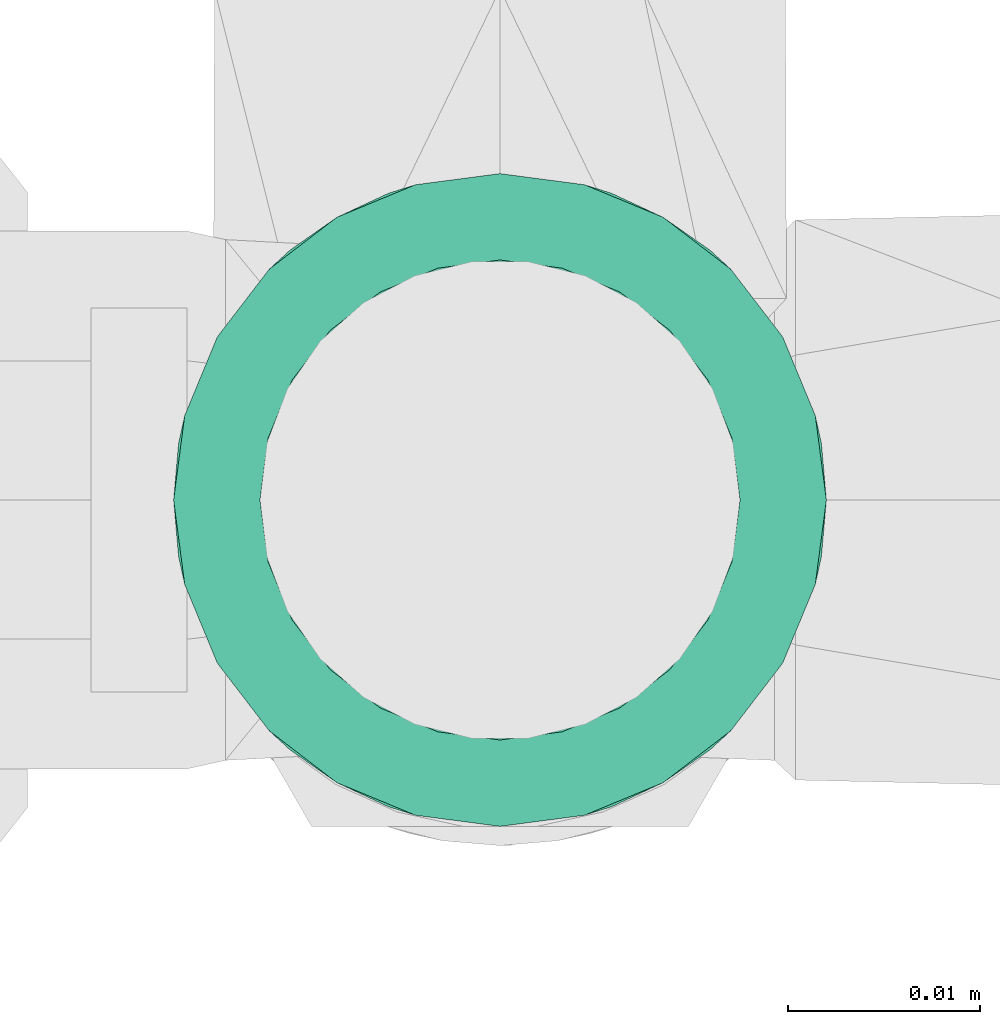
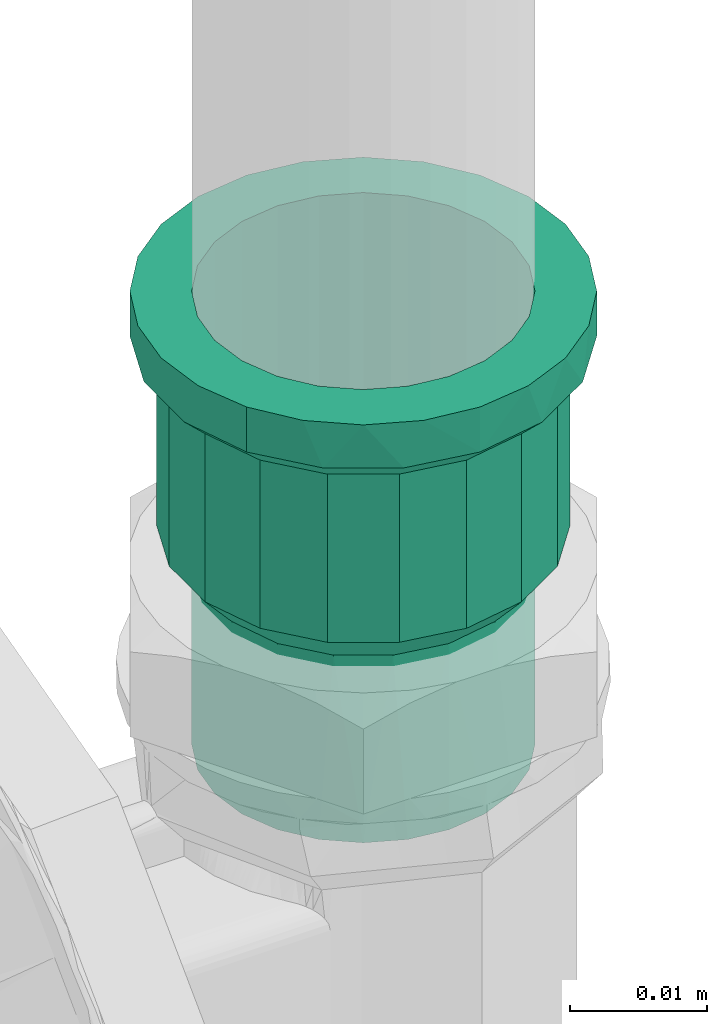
# One storey, part 399 of 589: 1 flow fitting.
"""IFC2X3 building model written with IfcOpenShell, lengths in millimetres."""

import ifcopenshell
import ifcopenshell.guid

model = None  # the IFC model being written
_history = None  # IfcOwnerHistory: only IFC2X3 demands one
_inside = {}  # id of a spatial element -> (the spatial element, [elements in it])
_under = {}  # id of a project, library or spatial element -> (it, [spatial elements below it])
_declared = {}  # id of a project -> (the project, [libraries it declares])
_typed = {}  # id of a type object -> (the type object, [elements of that type])
_made_of = {}  # id of a material, layer set ... -> (it, [elements and type objects made of it])


def new_model(schema):
    """Start an empty IFC model of exactly this schema.

    Asked for "IFC4X3", IfcOpenShell would pick the latest addendum, in which some entities
    have other attributes; the version numbers below select the first issue.
    IFC2X3 requires an IfcOwnerHistory on every rooted entity: one is made here for all.
    """
    global model, _history
    if schema == "IFC4X3":
        model = ifcopenshell.file(schema_version=(4, 3, 0, 0))
    else:
        model = ifcopenshell.file(schema=schema)
    _inside.clear()
    _under.clear()
    _declared.clear()
    _typed.clear()
    _made_of.clear()
    _history = None
    if model.schema == "IFC2X3":
        org = make("IfcOrganization", Name="unknown")
        user = make(
            "IfcPersonAndOrganization",
            ThePerson=make("IfcPerson", FamilyName="unknown"),
            TheOrganization=org,
        )
        app = make(
            "IfcApplication",
            ApplicationDeveloper=org,
            Version="unknown",
            ApplicationFullName="unknown",
            ApplicationIdentifier="unknown",
        )
        _history = make(
            "IfcOwnerHistory",
            OwningUser=user,
            OwningApplication=app,
            ChangeAction="ADDED",
            CreationDate=0,
        )
    return model


def make(cls, **values):
    """One entity of the class cls with the attributes given. An attribute that is None is left unset."""
    return model.create_entity(
        cls, **{name: value for name, value in values.items() if value is not None}
    )


def entity(cls, *values):
    """Any entity or typed value of the class cls, its attributes in the order of the schema. None: left unset."""
    e = model.create_entity(cls)
    for i, value in enumerate(values):
        if value is not None:
            e[i] = value
    return e


def rooted(cls, **values):
    """An entity with a GlobalId (a new one), such as an element, a storey or a relation."""
    return make(cls, GlobalId=ifcopenshell.guid.new(), OwnerHistory=_history, **values)


def si_unit(unit_type, name, prefix=None):
    """IfcSIUnit, for example si_unit("LENGTHUNIT", "METRE", prefix="MILLI")."""
    return make("IfcSIUnit", UnitType=unit_type, Prefix=prefix, Name=name)


def converted_unit(unit_type, name, factor, base, dimensions=None, offset=None):
    """IfcConversionBasedUnit, such as the inch: factor (a typed value) times the base unit."""
    return make(
        "IfcConversionBasedUnit"
        if offset is None
        else "IfcConversionBasedUnitWithOffset",
        ConversionOffset=offset,
        Dimensions=None
        if dimensions is None
        else entity("IfcDimensionalExponents", *dimensions),
        UnitType=unit_type,
        Name=name,
        ConversionFactor=make(
            "IfcMeasureWithUnit", ValueComponent=factor, UnitComponent=base
        ),
    )


def derived_unit(unit_type, elements):
    """IfcDerivedUnit: a product of units, each with its exponent."""
    return make(
        "IfcDerivedUnit",
        Elements=[
            make("IfcDerivedUnitElement", Unit=unit, Exponent=power)
            for unit, power in elements
        ],
        UnitType=unit_type,
    )


def assignment(units):
    """IfcUnitAssignment: the units of a project."""
    return None if units is None else make("IfcUnitAssignment", Units=units)


def point(xyz):
    """IfcCartesianPoint."""
    return None if xyz is None else make("IfcCartesianPoint", Coordinates=xyz)


def direction(xyz):
    """IfcDirection."""
    return None if xyz is None else make("IfcDirection", DirectionRatios=xyz)


def frame(location, z_axis=None, x_axis=None):
    """IfcAxis2Placement3D, a coordinate frame: its origin and axes. An axis left out is left unset."""
    return make(
        "IfcAxis2Placement3D",
        Location=point(location),
        Axis=direction(z_axis),
        RefDirection=direction(x_axis),
    )


def origin():
    """The frame at (0, 0, 0) with its axes left unset."""
    return frame((0.0, 0.0, 0.0))


def place(relative_to, where):
    """IfcLocalPlacement: puts the frame where relative to a parent placement (None: the world)."""
    return make(
        "IfcLocalPlacement", PlacementRelTo=relative_to, RelativePlacement=where
    )


def context(
    kind, dimensions, precision=None, world=None, true_north=None, identifier=None
):
    """IfcGeometricRepresentationContext, for example the 3D "Model" context."""
    return make(
        "IfcGeometricRepresentationContext",
        ContextIdentifier=identifier,
        ContextType=kind,
        CoordinateSpaceDimension=dimensions,
        Precision=precision,
        WorldCoordinateSystem=world,
        TrueNorth=true_north,
    )


def subcontext(parent, identifier, kind, view, scale=None):
    """IfcGeometricRepresentationSubContext, for example "Body" below "Model"."""
    return make(
        "IfcGeometricRepresentationSubContext",
        ContextIdentifier=identifier,
        ContextType=kind,
        ParentContext=parent,
        TargetScale=scale,
        TargetView=view,
    )


def project(units=None, contexts=None):
    """IfcProject with its units and contexts."""
    return rooted(
        "IfcProject",
        Name="project",
        RepresentationContexts=contexts,
        UnitsInContext=assignment(units),
    )


def spatial(cls, under=None, at=None, **own):
    """A site, building, storey or space (cls), placed at a placement, below another one or the project."""
    s = rooted(cls, ObjectPlacement=at, **own)
    if under is not None:
        _under.setdefault(under.id(), (under, []))[1].append(s)
    return s


def faces_of(points, faces, orient=None, outer=None):
    """IfcFace entities. A face is a list of loops; a loop is a list of indices into points, from 0.

    orient and outer hold one flag for each loop. By default every Orientation is true, the
    first loop of a face is its IfcFaceOuterBound and the others are IfcFaceBound.
    """
    made = []
    for i, loops in enumerate(faces):
        bounds = []
        for j, loop in enumerate(loops):
            is_outer = j == 0 if outer is None else outer[i][j]
            bounds.append(
                make(
                    "IfcFaceOuterBound" if is_outer else "IfcFaceBound",
                    Bound=make("IfcPolyLoop", Polygon=[points[k] for k in loop]),
                    Orientation=True if orient is None else orient[i][j],
                )
            )
        made.append(make("IfcFace", Bounds=bounds))
    return made


def faceted_brep(points, faces, orient=None, outer=None, voids=None):
    """IfcFacetedBrep: a solid bounded by flat faces; with voids (closed shells), ...WithVoids."""
    shared = [point(p) for p in points]
    hull = make("IfcClosedShell", CfsFaces=faces_of(shared, faces, orient, outer))
    if voids is None:
        return make("IfcFacetedBrep", Outer=hull)
    return make(
        "IfcFacetedBrepWithVoids",
        Outer=hull,
        Voids=[
            make(cls, CfsFaces=faces_of(shared, fs, o, b)) for cls, fs, o, b in voids
        ],
    )


def shape(context_of_items, identifier, shape_type, items):
    """IfcShapeRepresentation: the items that make up one representation, for example the "Body"."""
    return make(
        "IfcShapeRepresentation",
        ContextOfItems=context_of_items,
        RepresentationIdentifier=identifier,
        RepresentationType=shape_type,
        Items=items,
    )


def source(mapping_origin, context_of_items, identifier, shape_type, items):
    """IfcRepresentationMap: a shape defined once, which mapped items show again and again."""
    return make(
        "IfcRepresentationMap",
        MappingOrigin=mapping_origin,
        MappedRepresentation=shape(context_of_items, identifier, shape_type, items),
    )


def transform(
    local_origin,
    x_axis=None,
    y_axis=None,
    z_axis=None,
    scale=None,
    scale2=None,
    scale3=None,
    uniform=True,
):
    """IfcCartesianTransformationOperator3D, or its non-uniform kind. x_axis, y_axis, z_axis: its Axis1, 2, 3."""
    if uniform:
        return make(
            "IfcCartesianTransformationOperator3D",
            Axis1=direction(x_axis),
            Axis2=direction(y_axis),
            LocalOrigin=point(local_origin),
            Scale=scale,
            Axis3=direction(z_axis),
        )
    return make(
        "IfcCartesianTransformationOperator3DnonUniform",
        Axis1=direction(x_axis),
        Axis2=direction(y_axis),
        LocalOrigin=point(local_origin),
        Scale=scale,
        Axis3=direction(z_axis),
        Scale2=scale2,
        Scale3=scale3,
    )


def mapped(mapping_source, mapping_target):
    """IfcMappedItem: shows the shape of a source again, moved by a transform."""
    return make(
        "IfcMappedItem", MappingSource=mapping_source, MappingTarget=mapping_target
    )


def material(Name=None, Category=None):
    """IfcMaterial."""
    return make("IfcMaterial", Name=Name, Category=Category)


def made_of(thing, what):
    """Note that an element or type object is made of a material, layer set ...; save() writes the relation."""
    if what is not None:
        _made_of.setdefault(what.id(), (what, []))[1].append(thing)
    return thing


def type_object(cls, material=None, **own):
    """A type object (cls), such as IfcWallType, which elements share."""
    return made_of(rooted(cls, **own), material)


def type_shapes(of_type, sources):
    """Give a type object the sources (RepresentationMaps) that its elements show as mapped items."""
    of_type.RepresentationMaps = sources


def element(
    cls,
    number,
    at=None,
    inside=None,
    cuts=None,
    type_object=None,
    material=None,
    context=None,
    identifier="Body",
    shape_type=None,
    held_by="IfcProductDefinitionShape",
    body=None,
    shapes=None,
    **own,
):
    """One element of the class cls, such as IfcWall. Its Tag is "e" and its number.

    at: its placement. inside: the storey or other place that contains it. cuts: it is an
    opening in that element (IfcRelVoidsElement). A single representation is given by context,
    identifier, shape_type and body (its items); several are given by shapes. held_by: the class
    of the entity that holds the representations. save() writes the other relations.
    """
    e = rooted(cls, Tag="e%d" % number, ObjectPlacement=at, **own)
    if body is not None:
        shapes = [shape(context, identifier, shape_type, body)]
    if shapes is not None:
        e.Representation = make(held_by, Representations=shapes)
    if inside is not None:
        _inside.setdefault(inside.id(), (inside, []))[1].append(e)
    if cuts is not None:
        rooted(
            "IfcRelVoidsElement", RelatingBuildingElement=cuts, RelatedOpeningElement=e
        )
    if type_object is not None:
        _typed.setdefault(type_object.id(), (type_object, []))[1].append(e)
    return made_of(e, material)


def aggregate(whole, parts):
    """IfcRelAggregates: a whole, such as a stair, and the parts it consists of."""
    return rooted("IfcRelAggregates", RelatingObject=whole, RelatedObjects=parts)


def save(model, path):
    """Write the relations noted so far, then the file.

    IfcRelAggregates (storeys below a building ...), IfcRelContainedInSpatialStructure (elements
    in a storey), IfcRelDefinesByType, IfcRelAssociatesMaterial and IfcRelDeclares: one each for
    every whole, place, type object, material and project.
    """
    for whole, parts in _under.values():
        aggregate(whole, parts)
    for where, things in _inside.values():
        rooted(
            "IfcRelContainedInSpatialStructure",
            RelatedElements=things,
            RelatingStructure=where,
        )
    for kind, things in _typed.values():
        rooted("IfcRelDefinesByType", RelatedObjects=things, RelatingType=kind)
    for what, things in _made_of.values():
        rooted("IfcRelAssociatesMaterial", RelatedObjects=things, RelatingMaterial=what)
    for by, libraries in _declared.values():
        rooted("IfcRelDeclares", RelatingContext=by, RelatedDefinitions=libraries)
    model.write(path)


model = new_model("IFC2X3")

# Units and contexts
model_context = context("Model", 3, precision=0.01, world=origin(), true_north=direction((6.123031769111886e-17, 1.0)))
body_context = subcontext(model_context, "Body", "Model", "MODEL_VIEW")
ifc_project = project(units=[si_unit("LENGTHUNIT", "METRE", prefix="MILLI"), si_unit("AREAUNIT", "SQUARE_METRE"), si_unit("VOLUMEUNIT", "CUBIC_METRE"), converted_unit("PLANEANGLEUNIT", "DEGREE", entity("IfcRatioMeasure", 0.017453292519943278), si_unit("PLANEANGLEUNIT", "RADIAN"), dimensions=[0, 0, 0, 0, 0, 0, 0]), si_unit("MASSUNIT", "GRAM", prefix="KILO"), derived_unit("MASSDENSITYUNIT", [(si_unit("MASSUNIT", "GRAM", prefix="KILO"), 1), (si_unit("LENGTHUNIT", "METRE"), -3)]), derived_unit("IONCONCENTRATIONUNIT", [(si_unit("MASSUNIT", "GRAM", prefix="KILO"), 1), (si_unit("LENGTHUNIT", "METRE"), -3)]), derived_unit("MOMENTOFINERTIAUNIT", [(si_unit("LENGTHUNIT", "METRE"), 4)]), si_unit("TIMEUNIT", "SECOND"), si_unit("FREQUENCYUNIT", "HERTZ"), si_unit("THERMODYNAMICTEMPERATUREUNIT", "DEGREE_CELSIUS"), derived_unit("THERMALTRANSMITTANCEUNIT", [(si_unit("MASSUNIT", "GRAM", prefix="KILO"), 1), (si_unit("THERMODYNAMICTEMPERATUREUNIT", "KELVIN"), -1), (si_unit("TIMEUNIT", "SECOND"), -3)]), derived_unit("THERMALCONDUCTANCEUNIT", [(si_unit("MASSUNIT", "GRAM", prefix="KILO"), 1), (si_unit("THERMODYNAMICTEMPERATUREUNIT", "KELVIN"), -1), (si_unit("TIMEUNIT", "SECOND"), -3), (si_unit("LENGTHUNIT", "METRE"), 1)]), derived_unit("VOLUMETRICFLOWRATEUNIT", [(si_unit("LENGTHUNIT", "METRE"), 3), (si_unit("TIMEUNIT", "SECOND"), -1)]), derived_unit("MASSFLOWRATEUNIT", [(si_unit("MASSUNIT", "GRAM", prefix="KILO"), 1), (si_unit("TIMEUNIT", "SECOND"), -1)]), derived_unit("ROTATIONALFREQUENCYUNIT", [(si_unit("TIMEUNIT", "SECOND"), -1)]), si_unit("ELECTRICCURRENTUNIT", "AMPERE"), si_unit("ELECTRICVOLTAGEUNIT", "VOLT"), si_unit("POWERUNIT", "WATT"), si_unit("FORCEUNIT", "NEWTON", prefix="KILO"), si_unit("ILLUMINANCEUNIT", "LUX"), si_unit("LUMINOUSFLUXUNIT", "LUMEN"), si_unit("LUMINOUSINTENSITYUNIT", "CANDELA"), derived_unit("USERDEFINED", [(si_unit("MASSUNIT", "GRAM", prefix="KILO"), -1), (si_unit("LENGTHUNIT", "METRE"), -2), (si_unit("TIMEUNIT", "SECOND"), 3), (si_unit("LUMINOUSFLUXUNIT", "LUMEN"), 1)]), derived_unit("USERDEFINED", [(si_unit("MASSUNIT", "GRAM", prefix="KILO"), 1), (si_unit("TIMEUNIT", "SECOND"), -3), (si_unit("LENGTHUNIT", "METRE"), 3), (si_unit("ELECTRICCURRENTUNIT", "AMPERE"), -2)]), derived_unit("SOUNDPOWERUNIT", [(si_unit("MASSUNIT", "GRAM", prefix="KILO"), 1), (si_unit("TIMEUNIT", "SECOND"), -3), (si_unit("LENGTHUNIT", "METRE"), 2)]), derived_unit("SOUNDPRESSUREUNIT", [(si_unit("MASSUNIT", "GRAM", prefix="KILO"), 1), (si_unit("LENGTHUNIT", "METRE"), -1), (si_unit("TIMEUNIT", "SECOND"), -2)]), derived_unit("LINEARVELOCITYUNIT", [(si_unit("LENGTHUNIT", "METRE"), 1), (si_unit("TIMEUNIT", "SECOND"), -1)]), si_unit("PRESSUREUNIT", "PASCAL"), derived_unit("USERDEFINED", [(si_unit("MASSUNIT", "GRAM", prefix="KILO"), 1), (si_unit("LENGTHUNIT", "METRE"), -2), (si_unit("TIMEUNIT", "SECOND"), -2)]), derived_unit("LINEARFORCEUNIT", [(si_unit("MASSUNIT", "GRAM", prefix="KILO"), 1), (si_unit("TIMEUNIT", "SECOND"), -2)]), derived_unit("PLANARFORCEUNIT", [(si_unit("MASSUNIT", "GRAM", prefix="KILO"), 1), (si_unit("LENGTHUNIT", "METRE"), -1), (si_unit("TIMEUNIT", "SECOND"), -2)]), derived_unit("SPECIFICHEATCAPACITYUNIT", [(si_unit("THERMODYNAMICTEMPERATUREUNIT", "KELVIN"), -1), (si_unit("LENGTHUNIT", "METRE"), 2), (si_unit("TIMEUNIT", "SECOND"), -2)]), derived_unit("HEATINGVALUEUNIT", [(si_unit("LENGTHUNIT", "METRE"), 2), (si_unit("TIMEUNIT", "SECOND"), -2)]), derived_unit("VAPORPERMEABILITYUNIT", [(si_unit("LENGTHUNIT", "METRE"), -1), (si_unit("TIMEUNIT", "SECOND"), 1)]), derived_unit("DYNAMICVISCOSITYUNIT", [(si_unit("MASSUNIT", "GRAM", prefix="KILO"), 1), (si_unit("TIMEUNIT", "SECOND"), -1), (si_unit("LENGTHUNIT", "METRE"), -1)]), derived_unit("THERMALEXPANSIONCOEFFICIENTUNIT", [(si_unit("THERMODYNAMICTEMPERATUREUNIT", "KELVIN"), -1)]), derived_unit("MODULUSOFELASTICITYUNIT", [(si_unit("MASSUNIT", "GRAM", prefix="KILO"), 1), (si_unit("LENGTHUNIT", "METRE"), -1), (si_unit("TIMEUNIT", "SECOND"), -2)]), derived_unit("ISOTHERMALMOISTURECAPACITYUNIT", [(si_unit("LENGTHUNIT", "METRE"), 3), (si_unit("MASSUNIT", "GRAM", prefix="KILO"), -1)]), derived_unit("MOISTUREDIFFUSIVITYUNIT", [(si_unit("TIMEUNIT", "SECOND"), -1), (si_unit("LENGTHUNIT", "METRE"), 2)])], contexts=[model_context])

# Site, building, storey
site_placement = place(None, origin())
site = spatial("IfcSite", under=ifc_project, at=site_placement, Name="Default", CompositionType="ELEMENT")
building_placement = place(site_placement, origin())
building = spatial("IfcBuilding", under=site, at=building_placement, CompositionType="ELEMENT")
storey_placement = place(building_placement, frame((0.0, 0.0, 100.0)))
storey = spatial("IfcBuildingStorey", under=building, at=storey_placement, Name="TÉRREO", CompositionType="ELEMENT", Elevation=100.0)

# Flow fitting
ifc_material = material(Name="PVC Marrom")
pipe_fitting_type = type_object("IfcPipeFittingType", Name="PVC Marrom Soldável_Adaptador Curto com Bolsa e Rosca Aninhado_Rodrigo MEP:Adaptador", PredefinedType="NOTDEFINED", material=ifc_material)
shared_shape = source(origin(), body_context, "Body", "Brep", [
    faceted_brep([(0.0, 6.2499999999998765, -10.825317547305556), (0.0, 12.020815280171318, -12.0208152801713), (0.0, 8.500000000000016, -14.72243186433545), (0.0, 8.838834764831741, -8.83883476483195), (0.0, 3.2352380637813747, -12.07407282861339), (0.0, 14.722431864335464, -8.499999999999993), (0.0, 10.825317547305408, -6.250000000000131), (0.0, 12.074072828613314, -3.2352380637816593), (0.0, 16.42073904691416, -4.399923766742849), (0.0, 12.5, 0.0), (0.0, 17.0, 0.0), (0.0, 12.074072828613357, 3.2352380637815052), (0.0, 16.420739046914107, 4.399923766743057), (0.0, 10.825317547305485, 6.2499999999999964), (0.0, 14.722431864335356, 8.500000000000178), (0.0, 8.83883476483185, 8.838834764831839), (0.0, 12.020815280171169, 12.020815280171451), (0.0, 6.250000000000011, 10.82531754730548), (0.0, 8.499999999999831, 14.722431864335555), (0.0, 3.2352380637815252, 12.07407282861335), (0.0, 4.39992376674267, 16.42073904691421), (0.0, 0.0, 12.5), (0.0, 0.0, 17.0), (0.0, -3.2352380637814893, 12.07407282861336), (0.0, -4.399923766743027, 16.420739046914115), (0.0, -6.24999999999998, 10.825317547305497), (0.0, -8.500000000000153, 14.722431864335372), (0.0, -8.838834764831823, 8.838834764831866), (0.0, -12.020815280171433, 12.020815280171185), (0.0, -10.82531754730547, 6.250000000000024), (0.0, -14.722431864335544, 8.499999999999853), (0.0, -16.42073904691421, 4.399923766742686), (0.0, -12.074072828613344, 3.2352380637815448), (0.0, -17.0, 0.0), (0.0, -12.5, 0.0), (0.0, -16.42073904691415, -4.399923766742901), (0.0, -12.074072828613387, -3.235238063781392), (0.0, -14.722431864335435, -8.500000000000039), (0.0, -10.82531754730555, -6.249999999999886), (0.0, -12.02081528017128, -12.020815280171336), (0.0, -8.838834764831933, -8.838834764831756), (0.0, -8.499999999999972, -14.722431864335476), (0.0, -6.250000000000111, -10.825317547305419), (0.0, -4.399923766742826, -16.42073904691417), (0.0, -3.235238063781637, -12.074072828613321), (0.0, 0.0, -17.0), (0.0, 0.0, -12.5), (0.0, 4.399923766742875, -16.420739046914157), (4.0, -16.487306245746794, 2.907393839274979), (4.0, -15.974612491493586, 5.8147876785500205), (4.0, -13.022146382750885, 10.928115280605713), (4.0, -10.760457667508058, 12.825628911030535), (4.0, -14.498379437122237, 8.371451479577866), (4.0, -2.9501525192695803, 16.742060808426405), (4.0, -5.724460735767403, 15.732601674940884), (4.0, -17.0, 0.0), (4.0, -16.59968259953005, 2.27012779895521), (4.0, -8.498768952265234, 14.723142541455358), (4.0, 5.728407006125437, 15.731165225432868), (4.0, 8.502461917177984, 14.721010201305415), (4.0, 2.954352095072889, 16.74132024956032), (4.0, 10.763674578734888, 12.82292929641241), (4.0, 13.02488724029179, 10.924848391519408), (4.0, 15.976070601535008, 5.8107803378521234), (4.0, 17.0, 0.0), (4.0, 14.5004789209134, 8.367814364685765), (4.0, 0.002099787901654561, 16.741690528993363), (4.0, 15.97607060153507, -5.810780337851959), (4.0, 13.024887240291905, -10.92484839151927), (4.0, 10.763674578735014, -12.822929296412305), (4.0, 14.500478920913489, -8.367814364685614), (4.0, 2.9543520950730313, -16.741320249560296), (4.0, 5.728407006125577, -15.731165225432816), (4.0, 8.502461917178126, -14.721010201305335), (4.0, -16.487306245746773, -2.907393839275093), (4.0, -5.724460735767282, -15.732601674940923), (4.0, -8.498768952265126, -14.72314254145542), (4.0, -2.950152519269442, -16.74206080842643), (4.0, -10.760457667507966, -12.825628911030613), (4.0, -13.022146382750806, -10.928115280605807), (4.0, -15.974612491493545, -5.814787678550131), (4.0, -14.498379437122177, -8.371451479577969), (4.0, 0.002099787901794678, -16.741690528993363), (4.0, -16.599682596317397, -2.2701278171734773), (20.84999999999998, -14.142230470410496, 5.147797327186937), (5.900000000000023, -14.142230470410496, 5.147797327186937), (5.900000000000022, -14.59611523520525, 2.573898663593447), (5.900000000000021, -15.05, 0.0), (20.850000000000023, -15.05, 0.0), (20.85, -14.596115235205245, 2.573898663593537), (20.849999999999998, -14.535973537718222, 2.91495138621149), (20.84999999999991, -7.523910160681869, 13.034311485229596), (5.900000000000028, -7.523910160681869, 13.034311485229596), (5.900000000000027, -9.526169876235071, 11.354453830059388), (5.900000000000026, -11.528429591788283, 9.674596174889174), (20.84999999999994, -11.528429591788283, 9.674596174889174), (20.849999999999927, -9.52616987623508, 11.354453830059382), (5.900000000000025, -12.83533003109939, 7.411196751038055), (20.849999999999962, -12.835330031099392, 7.411196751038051), (5.900000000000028, -5.067831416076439, 13.927979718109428), (20.849999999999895, -5.067831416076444, 13.927979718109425), (20.849999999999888, -2.6117526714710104, 14.821647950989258), (5.900000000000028, -2.6117526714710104, 14.821647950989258), (5.900000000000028, 0.0018589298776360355, 14.8213201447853), (20.849999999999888, 0.0018589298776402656, 14.821320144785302), (20.849999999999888, 2.61547053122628, 14.820992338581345), (5.900000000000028, 2.615470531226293, 14.820992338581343), (20.849999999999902, 7.527179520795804, 13.032423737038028), (5.900000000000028, 7.527179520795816, 13.032423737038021), (5.900000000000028, 5.071325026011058, 13.92670803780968), (20.849999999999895, 5.0713250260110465, 13.926708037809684), (20.84999999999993, 11.530856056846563, 9.671704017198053), (5.900000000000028, 11.530856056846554, 9.671704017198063), (5.900000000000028, 9.52901778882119, 11.35206387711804), (20.849999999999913, 9.529017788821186, 11.352063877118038), (20.849999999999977, 14.143521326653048, 5.144249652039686), (5.900000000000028, 14.143521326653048, 5.144249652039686), (5.900000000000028, 12.837188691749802, 7.407976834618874), (20.849999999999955, 12.837188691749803, 7.407976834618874), (20.850000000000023, 15.05, 0.0), (5.900000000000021, 15.05, 0.0), (20.85000000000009, 14.143521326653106, -5.144249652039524), (5.900000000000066, 14.143521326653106, -5.144249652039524), (5.900000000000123, 7.527179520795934, -13.032423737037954), (5.900000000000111, 9.529017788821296, -11.352063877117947), (5.900000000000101, 11.530856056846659, -9.67170401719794), (20.85000000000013, 11.530856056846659, -9.67170401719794), (20.85000000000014, 9.529017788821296, -11.352063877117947), (20.850000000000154, 7.527179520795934, -13.032423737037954), (20.850000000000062, -14.142230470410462, -5.147797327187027), (5.900000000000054, -14.142230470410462, -5.147797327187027), (5.90000000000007, -12.835330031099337, -7.411196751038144), (5.900000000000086, -11.528429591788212, -9.67459617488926), (20.850000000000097, -11.528429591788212, -9.67459617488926), (20.850000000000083, -12.835330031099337, -7.411196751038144), (20.850000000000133, -7.523910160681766, -13.034311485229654), (5.900000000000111, -7.523910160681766, -13.034311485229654), (5.90000000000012, -5.067831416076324, -13.927979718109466), (5.900000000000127, -2.6117526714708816, -14.821647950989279), (20.850000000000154, -2.6117526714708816, -14.821647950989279), (20.85000000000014, -5.067831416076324, -13.927979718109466), (5.900000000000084, 12.837188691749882, -7.407976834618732), (20.850000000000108, 12.837188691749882, -7.40797683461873), (5.900000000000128, 5.071325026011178, -13.926708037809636), (20.850000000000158, 5.071325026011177, -13.926708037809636), (20.85000000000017, 2.6154705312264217, -14.82099233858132), (5.900000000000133, 2.6154705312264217, -14.82099233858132), (20.850000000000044, -14.535973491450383, -2.91495164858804), (20.85000000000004, -14.667751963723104, -2.1676596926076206), (5.900000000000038, -14.596115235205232, -2.573898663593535), (5.900000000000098, -9.526169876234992, -11.354453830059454), (20.850000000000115, -9.52616987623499, -11.354453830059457), (5.900000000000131, 0.0018589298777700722, -14.821320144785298), (20.850000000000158, 0.0018589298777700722, -14.821320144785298), (40.29999999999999, 3.2352380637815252, -12.07407282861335), (40.29999999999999, 6.250000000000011, -10.82531754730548), (40.29999999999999, 8.83883476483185, -8.838834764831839), (40.29999999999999, 10.825317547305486, -6.249999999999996), (40.29999999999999, 12.074072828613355, -3.2352380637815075), (40.29999999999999, 12.5, 0.0), (40.29999999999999, 12.074072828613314, 3.2352380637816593), (40.29999999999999, 10.825317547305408, 6.250000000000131), (40.29999999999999, 8.838834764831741, 8.83883476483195), (40.29999999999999, 6.2499999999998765, 10.825317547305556), (40.29999999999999, 3.2352380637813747, 12.07407282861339), (40.29999999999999, 0.0, 12.5), (40.29999999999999, -3.235238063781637, 12.074072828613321), (40.29999999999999, -6.250000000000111, 10.825317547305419), (40.29999999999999, -8.838834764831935, 8.838834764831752), (40.29999999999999, -10.825317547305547, 6.249999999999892), (40.29999999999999, -12.074072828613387, 3.235238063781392), (40.29999999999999, -12.5, 0.0), (40.29999999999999, -12.074072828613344, -3.2352380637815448), (40.29999999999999, -10.825317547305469, -6.2500000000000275), (40.29999999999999, -8.838834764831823, -8.838834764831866), (40.29999999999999, -6.24999999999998, -10.825317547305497), (40.29999999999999, -3.2352380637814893, -12.07407282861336), (40.29999999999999, 0.0, -12.5), (23.749999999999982, -12.5, 0.0), (23.74999999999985, -9.57510763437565, 8.035378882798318), (23.749999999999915, -11.746038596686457, 4.275579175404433), (23.749999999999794, -6.249094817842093, 10.825840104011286), (23.74999999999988, -10.660573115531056, 6.155479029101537), (23.74999999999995, -12.182518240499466, 1.8003818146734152), (23.74999999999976, -2.1692297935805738, 12.310338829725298), (23.74999999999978, -4.209162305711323, 11.56808946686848), (23.74999999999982, -7.912101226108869, 9.430609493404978), (23.749999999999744, 2.1723177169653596, 12.309794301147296), (23.749999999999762, 6.251810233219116, 10.824272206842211), (23.749999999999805, 9.577122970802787, 8.032976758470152), (23.749999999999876, 11.747110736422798, 4.272632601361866), (23.749999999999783, 7.9144666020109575, 9.428624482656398), (23.74999999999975, 4.212063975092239, 11.56703325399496), (23.749999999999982, 12.5, 0.0), (23.749999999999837, 10.662116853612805, 6.15280467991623), (23.74999999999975, 0.0015439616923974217, 12.31006656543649), (23.750000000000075, 9.577122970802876, -8.032976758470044), (23.75000000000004, 11.747110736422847, -4.272632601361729), (23.750000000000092, 6.2518102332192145, -10.824272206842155), (23.750000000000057, 10.662116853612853, -6.152804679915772), (23.7500000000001, 2.1723177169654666, -12.309794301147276), (23.7500000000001, 4.212063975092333, -11.56703325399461), (23.75000000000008, 7.914466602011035, -9.428624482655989), (23.750000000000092, -2.1692297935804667, -12.310338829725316), (23.750000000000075, -6.249094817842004, -10.82584010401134), (23.750000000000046, -9.575107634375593, -8.035378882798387), (23.750000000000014, -11.74603859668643, -4.275579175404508), (23.750000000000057, -7.912101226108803, -9.430609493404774), (23.75000000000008, -4.20916230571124, -11.56808946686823), (23.749999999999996, -12.123019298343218, -2.1377895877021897), (23.750000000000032, -10.660573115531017, -6.155479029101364), (23.7500000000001, 0.0015439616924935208, -12.310066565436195), (5.900000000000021, -12.5, 0.0), (20.850000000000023, -12.5, 0.0), (20.850000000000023, -12.07407282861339, -3.2352380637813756), (5.900000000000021, -12.07407282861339, -3.2352380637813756), (4.0, -12.07407282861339, -3.2352380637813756), (4.0, -12.5, 0.0), (20.850000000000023, -10.825317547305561, -6.249999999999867), (5.900000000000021, -10.825317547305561, -6.249999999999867), (4.0, -10.825317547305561, -6.249999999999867), (5.900000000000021, -6.250000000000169, -10.825317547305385), (4.0, -6.250000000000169, -10.825317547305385), (4.0, -8.838834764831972, -8.838834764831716), (5.900000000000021, -8.838834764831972, -8.838834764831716), (20.850000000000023, -8.838834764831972, -8.838834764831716), (20.850000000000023, -6.250000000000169, -10.825317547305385), (5.900000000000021, -3.235238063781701, -12.074072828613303), (4.0, -3.235238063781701, -12.074072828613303), (20.850000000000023, -3.235238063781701, -12.074072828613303), (20.850000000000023, 0.0, -12.5), (5.900000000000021, 0.0, -12.5), (4.0, 0.0, -12.5), (20.850000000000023, 3.2352380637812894, -12.074072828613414), (5.900000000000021, 3.2352380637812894, -12.074072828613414), (4.0, 3.2352380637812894, -12.074072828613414), (20.850000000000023, 6.24999999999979, -10.825317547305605), (5.900000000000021, 6.24999999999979, -10.825317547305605), (4.0, 6.24999999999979, -10.825317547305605), (5.900000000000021, 10.825317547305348, -6.250000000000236), (4.0, 10.825317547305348, -6.250000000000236), (4.0, 8.838834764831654, -8.838834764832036), (5.900000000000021, 8.838834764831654, -8.838834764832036), (20.850000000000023, 8.838834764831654, -8.838834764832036), (20.850000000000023, 10.825317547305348, -6.250000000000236), (5.900000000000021, 12.07407282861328, -3.2352380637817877), (4.0, 12.07407282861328, -3.2352380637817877), (20.850000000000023, 12.07407282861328, -3.2352380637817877), (20.850000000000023, 12.5, 0.0), (5.900000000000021, 12.5, 0.0), (4.0, 12.5, 0.0), (20.850000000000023, 12.074072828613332, 3.2352380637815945), (5.900000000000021, 12.074072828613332, 3.2352380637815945), (4.0, 12.074072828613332, 3.2352380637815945), (20.850000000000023, 10.82531754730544, 6.250000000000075), (5.900000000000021, 10.82531754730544, 6.250000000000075), (4.0, 10.82531754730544, 6.250000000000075), (5.900000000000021, 6.249999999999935, 10.825317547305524), (4.0, 6.249999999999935, 10.825317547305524), (4.0, 8.838834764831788, 8.838834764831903), (5.900000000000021, 8.838834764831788, 8.838834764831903), (20.850000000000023, 8.838834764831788, 8.838834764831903), (20.850000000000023, 6.249999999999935, 10.825317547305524), (5.900000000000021, 3.2352380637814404, 12.074072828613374), (4.0, 3.2352380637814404, 12.074072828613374), (20.850000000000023, 3.2352380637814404, 12.074072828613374), (20.850000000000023, 0.0, 12.5), (5.900000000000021, 0.0, 12.5), (4.0, 0.0, 12.5), (20.850000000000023, -3.2352380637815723, 12.074072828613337), (5.900000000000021, -3.2352380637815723, 12.074072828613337), (4.0, -3.2352380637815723, 12.074072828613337), (20.850000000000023, -6.250000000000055, 10.825317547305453), (5.900000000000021, -6.250000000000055, 10.825317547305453), (4.0, -6.250000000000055, 10.825317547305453), (5.900000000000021, -10.825317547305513, 6.249999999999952), (4.0, -10.825317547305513, 6.249999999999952), (4.0, -8.838834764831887, 8.838834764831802), (5.900000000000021, -8.838834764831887, 8.838834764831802), (20.850000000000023, -8.838834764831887, 8.838834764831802), (20.850000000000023, -10.825317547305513, 6.249999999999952), (5.900000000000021, -12.07407282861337, 3.2352380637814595), (4.0, -12.07407282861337, 3.2352380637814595), (20.850000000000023, -12.07407282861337, 3.2352380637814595)], [[[0, 1, 2]], [[3, 1, 0]], [[4, 0, 2]], [[1, 3, 5]], [[5, 3, 6]], [[5, 6, 7]], [[8, 5, 7]], [[9, 8, 7]], [[10, 8, 9]], [[10, 9, 11]], [[12, 10, 11]], [[12, 11, 13]], [[14, 12, 13]], [[14, 13, 15]], [[15, 16, 14]], [[15, 17, 16]], [[18, 16, 17]], [[19, 18, 17]], [[18, 19, 20]], [[21, 20, 19]], [[22, 20, 21]], [[21, 23, 22]], [[24, 22, 23]], [[25, 24, 23]], [[24, 25, 26]], [[25, 27, 26]], [[27, 28, 26]], [[28, 27, 29]], [[28, 29, 30]], [[30, 29, 31]], [[31, 29, 32]], [[33, 31, 32]], [[32, 34, 33]], [[33, 34, 35]], [[34, 36, 35]], [[37, 35, 36]], [[37, 36, 38]], [[39, 37, 38]], [[40, 39, 38]], [[40, 41, 39]], [[42, 41, 40]], [[43, 41, 42]], [[42, 44, 43]], [[43, 44, 45]], [[46, 45, 44]], [[46, 4, 47]], [[45, 46, 47]], [[2, 47, 4]], [[48, 49, 31]], [[28, 50, 51]], [[50, 30, 49, 52]], [[53, 24, 54]], [[30, 31, 49]], [[33, 55, 56, 48]], [[51, 57, 26]], [[51, 26, 28]], [[30, 50, 28]], [[58, 59, 18]], [[58, 18, 20]], [[26, 57, 54]], [[26, 54, 24]], [[22, 24, 53]], [[33, 48, 31]], [[20, 60, 58]], [[16, 61, 62]], [[12, 63, 64]], [[63, 14, 62, 65]], [[12, 64, 10]], [[18, 61, 16]], [[22, 53, 66, 60]], [[22, 60, 20]], [[14, 16, 62]], [[59, 61, 18]], [[14, 63, 12]], [[8, 64, 67]], [[1, 68, 69]], [[68, 5, 67, 70]], [[71, 47, 72]], [[5, 8, 67]], [[8, 10, 64]], [[2, 72, 47]], [[69, 73, 2]], [[5, 68, 1]], [[74, 33, 35]], [[75, 76, 41]], [[2, 73, 72]], [[75, 41, 43]], [[45, 47, 71]], [[69, 2, 1]], [[43, 77, 75]], [[39, 78, 79]], [[35, 80, 74]], [[80, 37, 79, 81]], [[37, 80, 35]], [[41, 78, 39]], [[45, 71, 82, 77]], [[45, 77, 43]], [[37, 39, 79]], [[76, 78, 41]], [[33, 74, 83, 55]], [[84, 85, 86, 87, 88, 89, 90]], [[91, 92, 93, 94, 95, 96]], [[97, 85, 84, 98, 95, 94]], [[99, 92, 91, 100, 101, 102]], [[103, 102, 101, 104, 105, 106]], [[107, 108, 109, 106, 105, 110]], [[111, 112, 113, 108, 107, 114]], [[115, 116, 117, 112, 111, 118]], [[115, 119, 120, 116]], [[120, 119, 121, 122]], [[123, 124, 125, 126, 127, 128]], [[129, 130, 131, 132, 133, 134]], [[135, 136, 137, 138, 139, 140]], [[141, 122, 121, 142, 126, 125]], [[143, 123, 128, 144, 145, 146]], [[147, 148, 88, 87, 149, 130, 129]], [[133, 132, 150, 136, 135, 151]], [[152, 146, 145, 153, 139, 138]], [[154, 155, 156, 157, 158, 159, 160, 161, 162, 163, 164, 165, 166, 167, 168, 169, 170, 171, 172, 173, 174, 175, 176, 177]], [[178, 171, 170]], [[179, 169, 168]], [[170, 169, 180]], [[168, 167, 181]], [[169, 179, 182, 180]], [[170, 180, 183, 178]], [[166, 184, 185, 181]], [[168, 181, 186, 179]], [[184, 166, 165]], [[181, 167, 166]], [[164, 187, 165]], [[163, 188, 164]], [[189, 162, 161]], [[163, 162, 188]], [[190, 161, 160]], [[162, 189, 191, 188]], [[164, 188, 192, 187]], [[160, 193, 190]], [[161, 190, 194, 189]], [[160, 159, 193]], [[165, 187, 195, 184]], [[193, 159, 158]], [[196, 157, 156]], [[158, 157, 197]], [[156, 155, 198]], [[157, 196, 199, 197]], [[197, 193, 158]], [[154, 200, 201, 198]], [[156, 198, 202, 196]], [[200, 154, 177]], [[198, 155, 154]], [[176, 203, 177]], [[175, 204, 176]], [[205, 174, 173]], [[175, 174, 204]], [[206, 173, 172]], [[174, 205, 207, 204]], [[176, 204, 208, 203]], [[172, 178, 209, 206]], [[173, 206, 210, 205]], [[172, 171, 178]], [[177, 203, 211, 200]], [[212, 213, 214, 215, 216, 36, 34, 217]], [[215, 214, 218, 219, 220, 38, 36, 216]], [[221, 222, 42, 40, 223, 224, 225, 226]], [[225, 224, 223, 40, 38, 220, 219, 218]], [[227, 228, 44, 42, 222, 221, 226, 229]], [[227, 229, 230, 231, 232, 46, 44, 228]], [[231, 230, 233, 234, 235, 4, 46, 232]], [[234, 233, 236, 237, 238, 0, 4, 235]], [[239, 240, 6, 3, 241, 242, 243, 244]], [[243, 242, 241, 3, 0, 238, 237, 236]], [[245, 246, 7, 6, 240, 239, 244, 247]], [[245, 247, 248, 249, 250, 9, 7, 246]], [[249, 248, 251, 252, 253, 11, 9, 250]], [[252, 251, 254, 255, 256, 13, 11, 253]], [[257, 258, 17, 15, 259, 260, 261, 262]], [[261, 260, 259, 15, 13, 256, 255, 254]], [[263, 264, 19, 17, 258, 257, 262, 265]], [[263, 265, 266, 267, 268, 21, 19, 264]], [[267, 266, 269, 270, 271, 23, 21, 268]], [[270, 269, 272, 273, 274, 25, 23, 271]], [[275, 276, 29, 27, 277, 278, 279, 280]], [[279, 278, 277, 27, 25, 274, 273, 272]], [[281, 282, 32, 29, 276, 275, 280, 283]], [[281, 283, 213, 212, 217, 34, 32, 282]], [[120, 122, 67, 64]], [[73, 123, 143, 146, 71, 72]], [[123, 73, 69, 68, 125, 124]], [[70, 67, 122, 141, 125, 68]], [[77, 138, 137, 136, 76, 75]], [[130, 80, 81, 79, 132, 131]], [[149, 87, 55, 83, 74, 80, 130]], [[82, 71, 146, 152, 138, 77]], [[78, 76, 136, 150, 132, 79]], [[49, 48, 56, 55, 87, 86, 85]], [[52, 49, 85, 97, 94, 50]], [[51, 50, 94, 93, 92, 57]], [[92, 99, 102, 53, 54, 57]], [[103, 106, 60, 66, 53, 102]], [[109, 108, 59, 58, 60, 106]], [[116, 120, 64, 63]], [[112, 117, 116, 63, 65, 62]], [[108, 113, 112, 62, 61, 59]], [[233, 230, 229, 226, 225, 218, 214, 213, 283, 280, 279, 272, 269, 266, 265, 262, 261, 254, 251, 248, 247, 244, 243, 236]], [[180, 84, 90, 89, 88, 178, 183]], [[184, 101, 100, 91, 181, 185]], [[96, 95, 179, 186, 181, 91]], [[98, 84, 180, 182, 179, 95]], [[101, 184, 195, 187, 105, 104]], [[190, 115, 118, 111, 189, 194]], [[105, 187, 192, 188, 107, 110]], [[190, 193, 119, 115]], [[114, 107, 188, 191, 189, 111]], [[193, 197, 121, 119]], [[128, 198, 201, 200, 145, 144]], [[198, 128, 127, 126, 196, 202]], [[142, 121, 197, 199, 196, 126]], [[139, 203, 208, 204, 135, 140]], [[206, 129, 134, 133, 205, 210]], [[209, 178, 88, 148, 147, 129, 206]], [[153, 145, 200, 211, 203, 139]], [[151, 135, 204, 207, 205, 133]]]),
])
type_shapes(pipe_fitting_type, [shared_shape])
flow_fitting_placement = place(storey_placement, frame((3191.179797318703, 277.3181290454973, 2254.75), z_axis=(-1.0, 0.0, 0.0), x_axis=(0.0, 0.0, -1.0)))
element("IfcFlowFitting", 1, at=flow_fitting_placement, inside=storey, type_object=pipe_fitting_type, material=ifc_material, Name="PVC Marrom Soldável_Adaptador Curto com Bolsa e Rosca Aninhado_Rodrigo MEP:Adaptador", ObjectType="PVC Marrom Soldável_Adaptador Curto com Bolsa e Rosca Aninhado_Rodrigo MEP:Adaptador", context=body_context, shape_type="MappedRepresentation", body=[
    mapped(shared_shape, transform((0.0, 0.0, 0.0), scale=1.0)),
])

save(model, "model.ifc")
